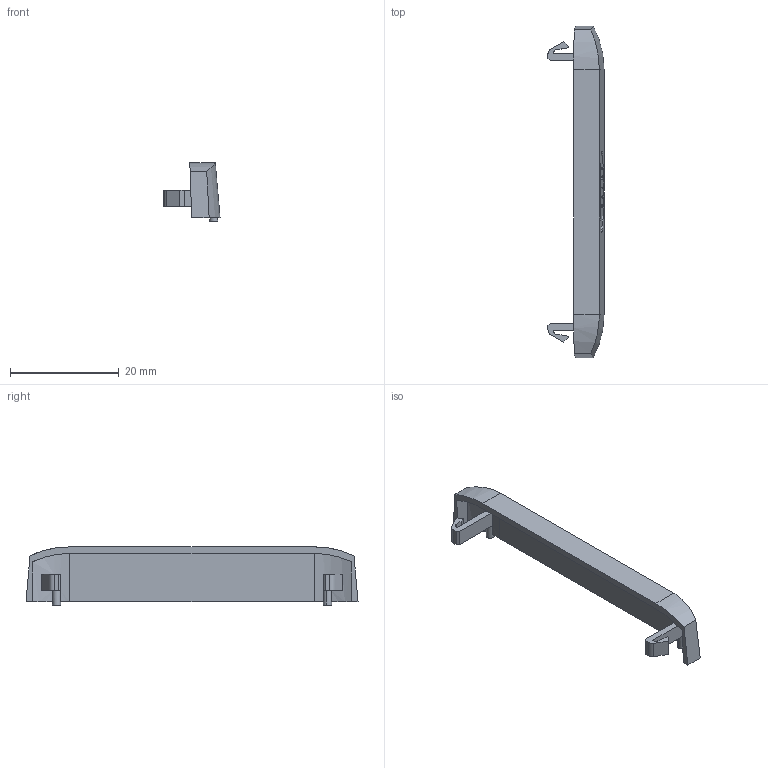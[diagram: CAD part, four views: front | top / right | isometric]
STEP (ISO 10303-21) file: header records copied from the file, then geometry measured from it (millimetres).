
FILE_DESCRIPTION(('CAx-IF Rec.Pracs.---Model Styling and Organization---1.2---2011-12-15','CAx-IF Rec.Pracs.---Geometric and Assembly Validation Properties---4.1---2014-06-16','CAx-IF Rec.Pracs.---PMI Polyline Presentation---2.0---2013-05-24'),'2;1');
FILE_NAME('021Y905Y03.stp','2018-04-05T11:45:09+02:00',(''),(''),'STEP Interface 4.1 Sp1 by CT CoreTechnologie','3D_Evolution4.1 Sp1 by CT CoreTechnologie','');
FILE_SCHEMA(('AUTOMOTIVE_DESIGN { 1 0 10303 214 1 1 1 1 }'));
Length unit declared in the file: millimetre
Products named in the file (1): 021-905-03
Bounding box: 10.3 x 61 x 10.69 mm (x, y, z)
Volume: 868.6 mm3; surface area: 2123.1 mm2
Topology: 1 solids, 1 shells, 99 faces, 263 edges, 174 vertices
Faces by surface type: plane 69, cylinder 26, bspline 4
Entity records: 4097 total; most frequent: CARTESIAN_POINT 781, ORIENTED_EDGE 526, DIRECTION 508, EDGE_CURVE 263, VECTOR 194, LINE 194, VERTEX_POINT 174, AXIS2_PLACEMENT_3D 157
